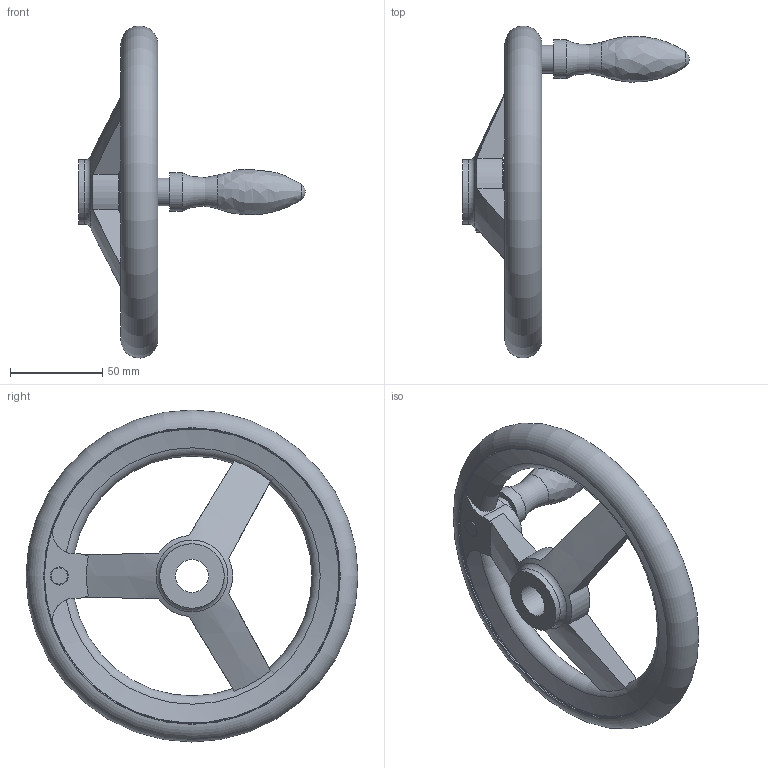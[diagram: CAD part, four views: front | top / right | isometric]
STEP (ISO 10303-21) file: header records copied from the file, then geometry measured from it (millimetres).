
FILE_DESCRIPTION( ( 'STEP AP203' ), '1' );
FILE_NAME( 'C:/Temp/Ganter_Step_05_03_2020/data/1_3/din_950/din_950_b/din_950_b_d/Handwheel DIN 950-AL-180-B18-D.stp', '2020-03-05T10:29:45', ( 'License CC BY-ND 4.0' ), ( 'CADENAS' ), ' ', 'PARTsolutions', ' ' );
FILE_SCHEMA( ( 'CONFIG_CONTROL_DESIGN' ) );
Length unit declared in the file: millimetre
Products named in the file (1): _Handwheel DIN 950-AL-180-B18-D
Bounding box: 123 x 179.98 x 179.98 mm (x, y, z)
Volume: 259496.1 mm3; surface area: 55570 mm2
Topology: 1 solids, 1 shells, 44 faces, 119 edges, 75 vertices
Faces by surface type: cylinder 13, plane 12, torus 11, cone 6, bspline 1, sphere 1
Full cylindrical faces by diameter (mm): 15 x1, 18 x1, 21 x1, 35 x2, 160 x2
Entity records: 1689 total; most frequent: CARTESIAN_POINT 670, DIRECTION 196, ORIENTED_EDGE 184, AXIS2_PLACEMENT_3D 93, EDGE_CURVE 92, EDGE_LOOP 71, VERTEX_POINT 71, FACE_OUTER_BOUND 60
